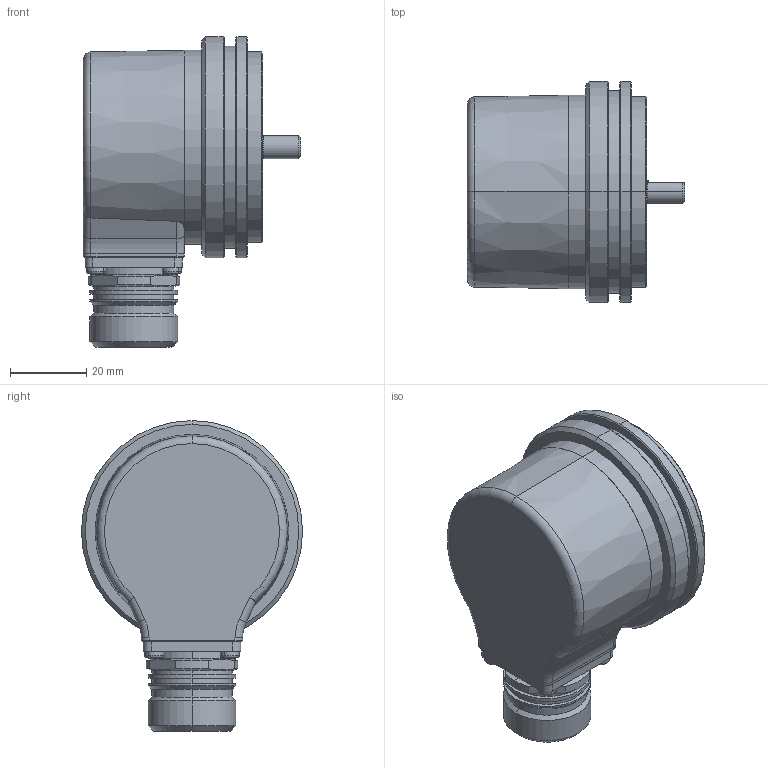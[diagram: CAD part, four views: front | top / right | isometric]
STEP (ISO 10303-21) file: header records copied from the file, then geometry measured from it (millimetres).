
FILE_DESCRIPTION (( 'STEP AP214' ), '1' );
FILE_NAME ('5000.B1X8.XXXX.STEP', '2009-01-14T08:48:30', ( 'admin' ), ( 'Fritz Kübler GmbH' ), 'SwSTEP 2.0', 'SolidWorks 2008', '' );
FILE_SCHEMA (( 'AUTOMOTIVE_DESIGN' ));
Length unit declared in the file: millimetre
Products named in the file (1): 5000.B1X8.XXXX
Bounding box: 57 x 58 x 81.5 mm (x, y, z)
Volume: 67714.6 mm3; surface area: 40237.5 mm2
Topology: 22 solids, 25 shells, 880 faces, 1998 edges, 1202 vertices
Faces by surface type: cylinder 366, plane 214, cone 145, torus 89, sphere 56, bspline 10
Entity records: 35146 total; most frequent: CARTESIAN_POINT 5217, DIRECTION 4658, ORIENTED_EDGE 3816, AXIS2_PLACEMENT_3D 1983, EDGE_CURVE 1908, VERTEX_POINT 1172, CIRCLE 1112, EDGE_LOOP 1040
